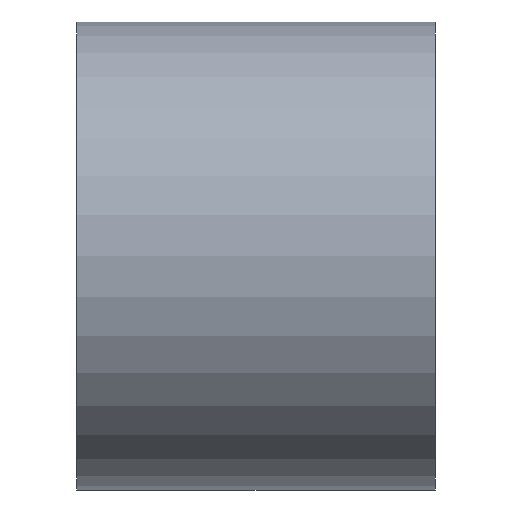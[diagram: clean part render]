
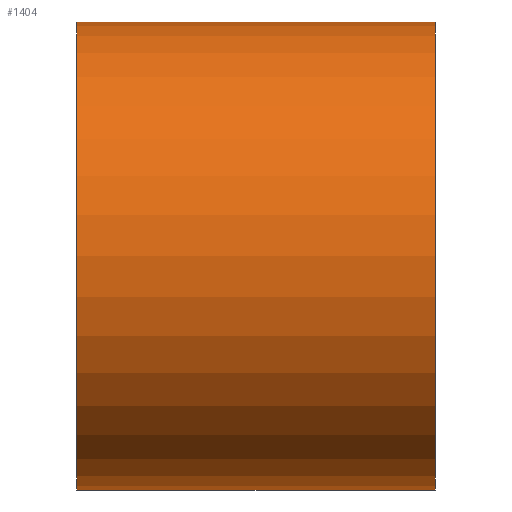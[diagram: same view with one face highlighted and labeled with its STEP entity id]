
A CAD part, front view. The second image highlights one B-rep face of the part: STEP entity #1404.
In plain terms, the highlighted cylindrical face has radius 49 mm (diameter 98 mm), a partial arc.
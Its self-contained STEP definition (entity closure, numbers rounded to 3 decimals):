
#11 = EDGE_CURVE ( 'NONE', #103, #226, #240, .T. ) ;
#14 = VERTEX_POINT ( 'NONE', #260 ) ;
#26 = EDGE_CURVE ( 'NONE', #103, #14, #359, .T. ) ;
#103 = VERTEX_POINT ( 'NONE', #928 ) ;
#226 = VERTEX_POINT ( 'NONE', #1046 ) ;
#240 = CIRCLE ( 'NONE', #241, 49. ) ;
#241 = AXIS2_PLACEMENT_3D ( 'NONE', #242, #243, #245 ) ;
#242 = CARTESIAN_POINT ( 'NONE',  ( 75., 0., 0. ) ) ;
#243 = DIRECTION ( 'NONE',  ( -1., 0., 0. ) ) ;
#245 = DIRECTION ( 'NONE',  ( 0., 0., 1. ) ) ;
#260 = CARTESIAN_POINT ( 'NONE',  ( 0., 0., -49. ) ) ;
#359 = LINE ( 'NONE', #360, #361 ) ;
#360 = CARTESIAN_POINT ( 'NONE',  ( 0., 0., -49. ) ) ;
#361 = VECTOR ( 'NONE', #362, 1000. ) ;
#362 = DIRECTION ( 'NONE',  ( -1., 0., 0. ) ) ;
#511 = EDGE_CURVE ( 'NONE', #14, #1248, #531, .T. ) ;
#523 = CARTESIAN_POINT ( 'NONE',  ( 0., 0., 49. ) ) ;
#531 = CIRCLE ( 'NONE', #532, 49. ) ;
#532 = AXIS2_PLACEMENT_3D ( 'NONE', #533, #534, #535 ) ;
#533 = CARTESIAN_POINT ( 'NONE',  ( 0., 0., 0. ) ) ;
#534 = DIRECTION ( 'NONE',  ( -1., 0., 0. ) ) ;
#535 = DIRECTION ( 'NONE',  ( 0., 0., 1. ) ) ;
#718 = LINE ( 'NONE', #719, #720 ) ;
#719 = CARTESIAN_POINT ( 'NONE',  ( 0., 0., 49. ) ) ;
#720 = VECTOR ( 'NONE', #721, 1000. ) ;
#721 = DIRECTION ( 'NONE',  ( -1., 0., 0. ) ) ;
#738 = FACE_OUTER_BOUND ( 'NONE', #1373, .T. ) ;
#739 = CYLINDRICAL_SURFACE ( 'NONE', #742, 49. ) ;
#742 = AXIS2_PLACEMENT_3D ( 'NONE', #743, #744, #745 ) ;
#743 = CARTESIAN_POINT ( 'NONE',  ( 0., 0., 0. ) ) ;
#744 = DIRECTION ( 'NONE',  ( -1., 0., 0. ) ) ;
#745 = DIRECTION ( 'NONE',  ( 0., 0., 1. ) ) ;
#794 = EDGE_CURVE ( 'NONE', #226, #1248, #718, .T. ) ;
#870 = ORIENTED_EDGE ( 'NONE', *, *, #511, .F. ) ;
#928 = CARTESIAN_POINT ( 'NONE',  ( 75., 0., -49. ) ) ;
#1046 = CARTESIAN_POINT ( 'NONE',  ( 75., 0., 49. ) ) ;
#1218 = ORIENTED_EDGE ( 'NONE', *, *, #794, .T. ) ;
#1248 = VERTEX_POINT ( 'NONE', #523 ) ;
#1263 = ORIENTED_EDGE ( 'NONE', *, *, #11, .T. ) ;
#1322 = ORIENTED_EDGE ( 'NONE', *, *, #26, .F. ) ;
#1373 = EDGE_LOOP ( 'NONE', ( #1322, #1263, #1218, #870 ) ) ;
#1404 = ADVANCED_FACE ( 'NONE', ( #738 ), #739, .T. ) ;
